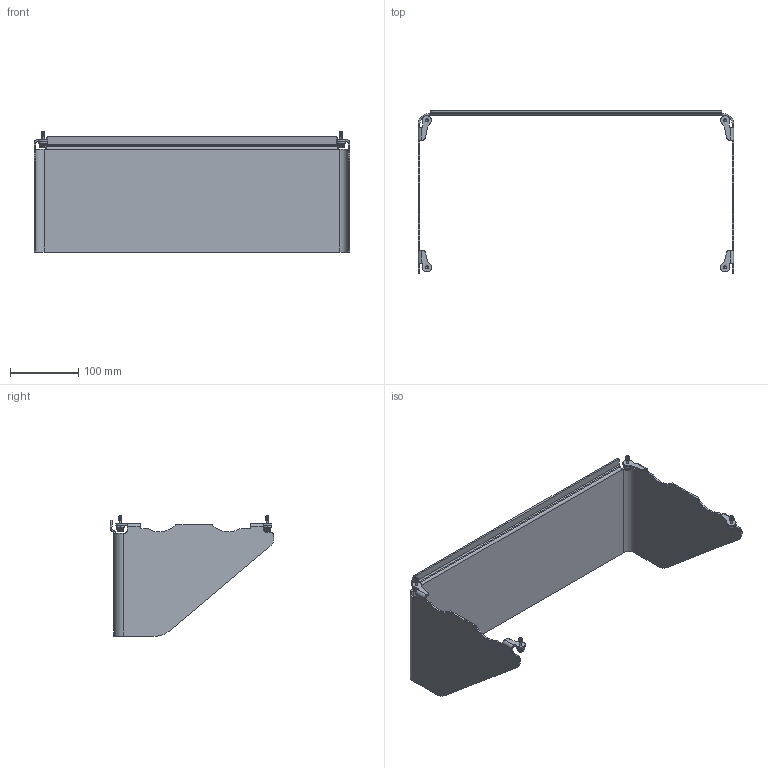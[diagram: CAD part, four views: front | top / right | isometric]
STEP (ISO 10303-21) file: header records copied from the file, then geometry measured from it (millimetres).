
FILE_DESCRIPTION((''),'2;1');
FILE_NAME('F1NVISOR_SW','2021-04-16T13:56:50',('gatsonnb'),(''),'CREO PARAMETRIC BY PTC INC, 2019080','CREO PARAMETRIC BY PTC INC, 2019080','');
FILE_SCHEMA(('CONFIG_CONTROL_DESIGN'));
Length unit declared in the file: inch
Products named in the file (1): F1NVISOR_SW
Bounding box: 463.19 x 240.2 x 176.38 mm (x, y, z)
Volume: 310463.8 mm3; surface area: 268503.1 mm2
Topology: 1 solids, 1 shells, 534 faces, 1440 edges, 930 vertices
Faces by surface type: plane 244, cylinder 218, cone 32, torus 32, bspline 8
Entity records: 36634 total; most frequent: CARTESIAN_POINT 23696, ORIENTED_EDGE 2880, DIRECTION 2416, EDGE_CURVE 1440, VERTEX_POINT 930, AXIS2_PLACEMENT_3D 812, VECTOR 792, LINE 792
